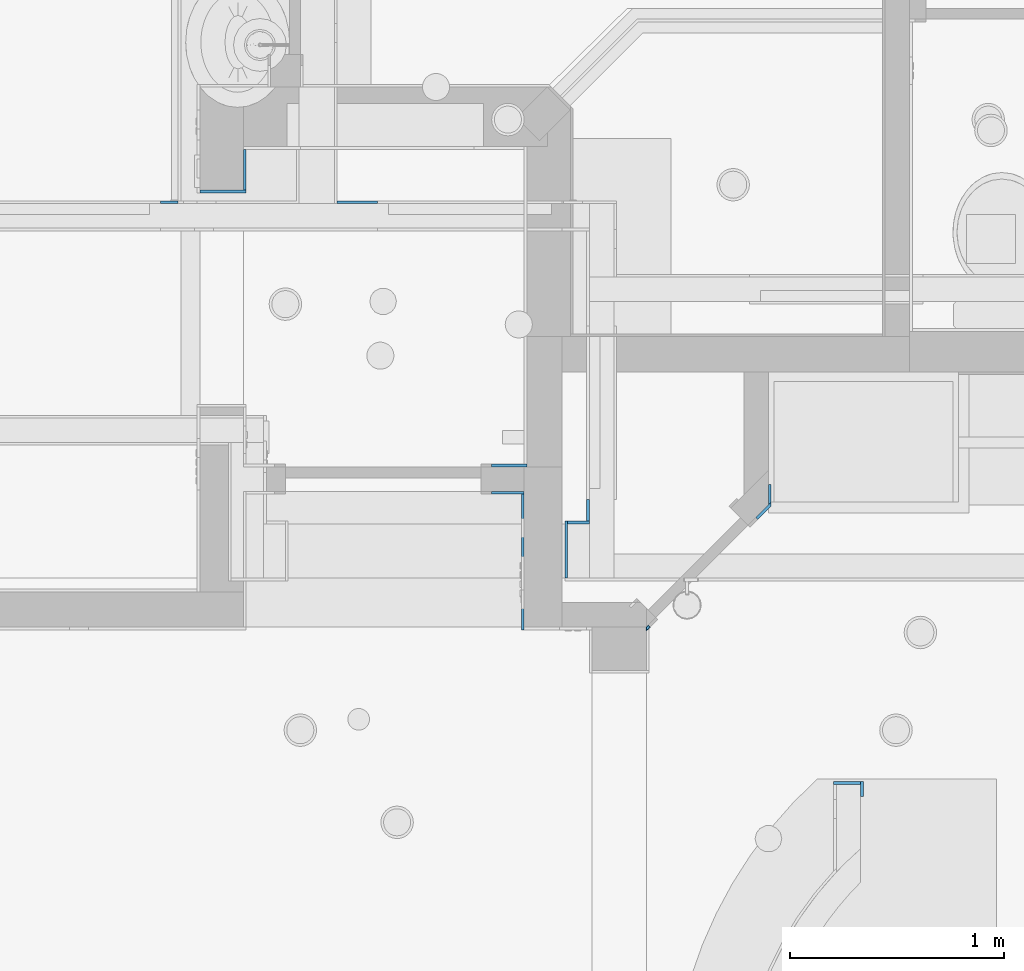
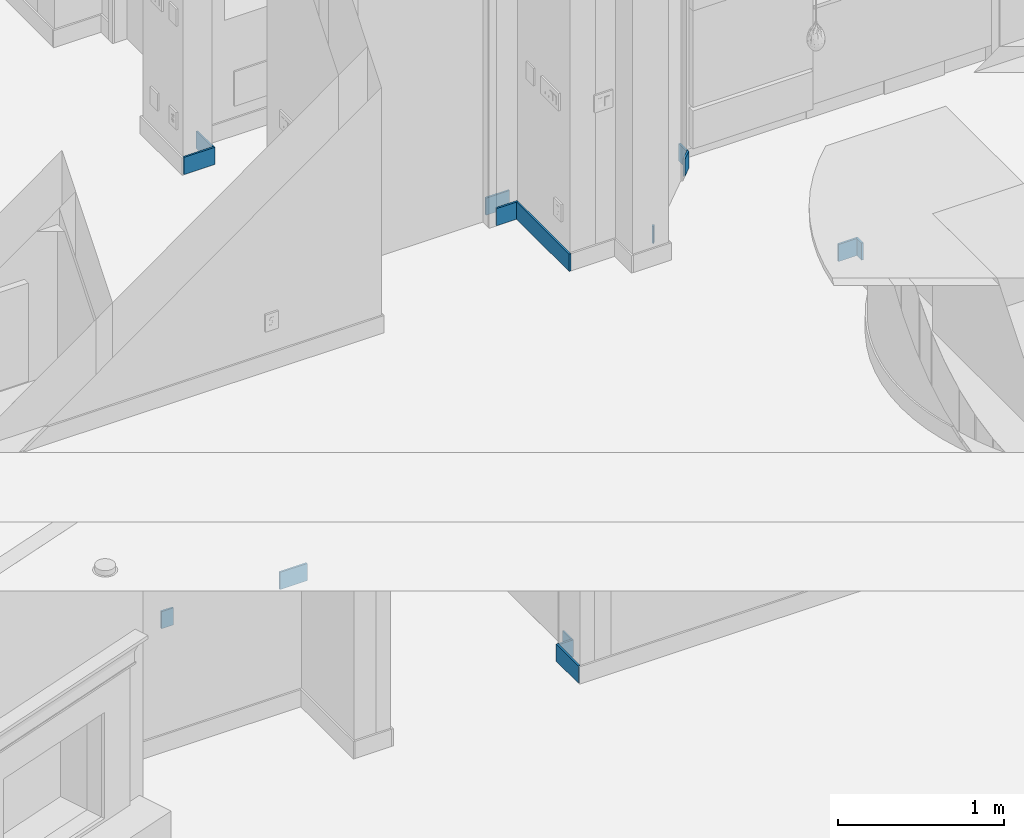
# One storey, part 23 of 81: 15 walls.
"""IFC2X3 building model written with IfcOpenShell, lengths in feet."""

from ifc_helpers import new_model, entity, si_unit, converted_unit, derived_unit, direction, frame, frame_2d, origin, place, context, subcontext, project, spatial, polyline, rectangle, outline, extrude, clip, bounded_halfspace, material, layer, layer_set, layer_usage, type_object, element, save


model = new_model("IFC2X3")

# Units and contexts
model_context = context("Model", 3, precision=0.0001, world=origin(), true_north=direction((6.12303176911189e-17, 1.0)))
body_context = subcontext(model_context, "Body", "Model", "MODEL_VIEW")
ifc_project = project(units=[converted_unit("LENGTHUNIT", "FOOT", entity("IfcRatioMeasure", 0.3048), si_unit("LENGTHUNIT", "METRE"), dimensions=[1, 0, 0, 0, 0, 0, 0]), converted_unit("AREAUNIT", "SQUARE FOOT", entity("IfcRatioMeasure", 0.09290304), si_unit("AREAUNIT", "SQUARE_METRE"), dimensions=[2, 0, 0, 0, 0, 0, 0]), converted_unit("VOLUMEUNIT", "CUBIC FOOT", entity("IfcRatioMeasure", 0.028316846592), si_unit("VOLUMEUNIT", "CUBIC_METRE"), dimensions=[3, 0, 0, 0, 0, 0, 0]), converted_unit("PLANEANGLEUNIT", "DEGREE", entity("IfcRatioMeasure", 0.0174532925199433), si_unit("PLANEANGLEUNIT", "RADIAN"), dimensions=[0, 0, 0, 0, 0, 0, 0]), si_unit("MASSUNIT", "GRAM", prefix="KILO"), derived_unit("MASSDENSITYUNIT", [(si_unit("MASSUNIT", "GRAM", prefix="KILO"), 1), (si_unit("LENGTHUNIT", "METRE"), -3)]), derived_unit("MOMENTOFINERTIAUNIT", [(si_unit("LENGTHUNIT", "METRE"), 4)]), si_unit("TIMEUNIT", "SECOND"), si_unit("FREQUENCYUNIT", "HERTZ"), si_unit("THERMODYNAMICTEMPERATUREUNIT", "DEGREE_CELSIUS"), derived_unit("THERMALTRANSMITTANCEUNIT", [(si_unit("MASSUNIT", "GRAM", prefix="KILO"), 1), (si_unit("THERMODYNAMICTEMPERATUREUNIT", "KELVIN"), -1), (si_unit("TIMEUNIT", "SECOND"), -3)]), derived_unit("VOLUMETRICFLOWRATEUNIT", [(si_unit("LENGTHUNIT", "METRE"), 3), (si_unit("TIMEUNIT", "SECOND"), -1)]), si_unit("ELECTRICCURRENTUNIT", "AMPERE"), si_unit("ELECTRICVOLTAGEUNIT", "VOLT"), si_unit("POWERUNIT", "WATT"), si_unit("FORCEUNIT", "NEWTON"), si_unit("ILLUMINANCEUNIT", "LUX"), si_unit("LUMINOUSFLUXUNIT", "LUMEN"), si_unit("LUMINOUSINTENSITYUNIT", "CANDELA"), derived_unit("USERDEFINED", [(si_unit("MASSUNIT", "GRAM", prefix="KILO"), -1), (si_unit("LENGTHUNIT", "METRE"), -2), (si_unit("TIMEUNIT", "SECOND"), 3), (si_unit("LUMINOUSFLUXUNIT", "LUMEN"), 1)]), derived_unit("LINEARVELOCITYUNIT", [(si_unit("LENGTHUNIT", "METRE"), 1), (si_unit("TIMEUNIT", "SECOND"), -1)]), si_unit("PRESSUREUNIT", "PASCAL"), derived_unit("USERDEFINED", [(si_unit("LENGTHUNIT", "METRE"), -2), (si_unit("MASSUNIT", "GRAM", prefix="KILO"), 1), (si_unit("TIMEUNIT", "SECOND"), -2)]), derived_unit("LINEARFORCEUNIT", [(si_unit("MASSUNIT", "GRAM", prefix="KILO"), 1), (si_unit("LENGTHUNIT", "METRE"), 1), (si_unit("TIMEUNIT", "SECOND"), -2), (si_unit("LENGTHUNIT", "METRE"), -1)]), derived_unit("PLANARFORCEUNIT", [(si_unit("MASSUNIT", "GRAM", prefix="KILO"), 1), (si_unit("LENGTHUNIT", "METRE"), 1), (si_unit("TIMEUNIT", "SECOND"), -2), (si_unit("LENGTHUNIT", "METRE"), -2)])], contexts=[model_context])

# Site, building, storey
site_placement = place(None, origin())
site = spatial("IfcSite", under=ifc_project, at=site_placement, Name="Default", CompositionType="ELEMENT")
building_placement = place(site_placement, origin())
building = spatial("IfcBuilding", under=site, at=building_placement, CompositionType="ELEMENT")
storey_placement = place(building_placement, origin())
storey = spatial("IfcBuildingStorey", under=building, at=storey_placement, Name="First floor", CompositionType="ELEMENT", Elevation=0.0)

# Walls
ifc_material = material(Name="Default New Material")
ifc_layer = layer(ifc_material, 0.0416666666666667)
ifc_layer_set = layer_set([ifc_layer], Name="Basic Wall:Wall Border_T1")
ifc_layer_usage_1 = layer_usage(ifc_layer_set, "AXIS2", "POSITIVE", -0.0208333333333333)
wall_type = type_object("IfcWallType", Name="Basic Wall:Wall Border_T1", PredefinedType="STANDARD", material=ifc_layer_set)
wall_1_placement = place(storey_placement, frame((-0.354166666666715, 31.0, 0.0), z_axis=(0.0, 0.0, 1.0), x_axis=(0.0, -1.0, 0.0)))
element("IfcWallStandardCase", 1, at=wall_1_placement, inside=storey, type_object=wall_type, material=ifc_layer_usage_1, Name="Basic Wall:Wall Border_T1", ObjectType="Basic Wall:Wall Border_T1", context=body_context, shape_type="SweptSolid", body=[
    extrude(rectangle(XDim=0.333333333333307, YDim=0.0416666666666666, at=frame_2d((0.166666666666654, -6.93889390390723e-18), x_axis=(-1.0, 0.0))), origin(), (0.0, 0.0, 1.0), 0.416666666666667),
])
ifc_layer_usage_2 = layer_usage(ifc_layer_set, "AXIS2", "POSITIVE", -0.0208333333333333)
wall_2_placement = place(storey_placement, frame((-0.333333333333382, 30.6458333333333, 0.0), z_axis=(0.0, 0.0, 1.0), x_axis=(-1.0, 0.0, 0.0)))
element("IfcWallStandardCase", 2, at=wall_2_placement, inside=storey, type_object=wall_type, material=ifc_layer_usage_2, Name="Basic Wall:Wall Border_T1", ObjectType="Basic Wall:Wall Border_T1", context=body_context, shape_type="SweptSolid", body=[
    extrude(rectangle(XDim=0.333333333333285, YDim=0.0416666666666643, at=frame_2d((0.166666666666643, 0.0), x_axis=(-1.0, 0.0))), origin(), (0.0, 0.0, 1.0), 0.416666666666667),
])
ifc_layer_usage_3 = layer_usage(ifc_layer_set, "AXIS2", "POSITIVE", -0.0208333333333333)
wall_3_placement = place(storey_placement, frame((-0.6875, 30.6666666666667, 0.0), z_axis=(0.0, 0.0, 1.0), x_axis=(0.0, -1.0, 0.0)))
element("IfcWallStandardCase", 3, at=wall_3_placement, inside=storey, type_object=wall_type, material=ifc_layer_usage_3, Name="Basic Wall:Wall Border_T1", ObjectType="Basic Wall:Wall Border_T1", context=body_context, shape_type="SweptSolid", body=[
    extrude(rectangle(XDim=0.875000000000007, YDim=0.0416666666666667, at=frame_2d((0.437500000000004, -2.25514051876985e-17), x_axis=(-1.0, 0.0))), origin(), (0.0, 0.0, 1.0), 0.416666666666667),
])
ifc_layer_usage_4 = layer_usage(ifc_layer_set, "AXIS2", "POSITIVE", -0.0208333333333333)
wall_4_placement = place(storey_placement, frame((-6.64583333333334, 35.5625, 0.0), z_axis=(0.0, 0.0, 1.0), x_axis=(-1.0, 0.0, 0.0)))
element("IfcWallStandardCase", 4, at=wall_4_placement, inside=storey, type_object=wall_type, material=ifc_layer_usage_4, Name="Basic Wall:Wall Border_T1", ObjectType="Basic Wall:Wall Border_T1", context=body_context, shape_type="SweptSolid", body=[
    extrude(rectangle(XDim=0.270833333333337, YDim=0.0416666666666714, at=frame_2d((0.135416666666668, 0.0), x_axis=(-1.0, 0.0))), origin(), (0.0, 0.0, 1.0), 0.416666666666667),
])
ifc_layer_usage_5 = layer_usage(ifc_layer_set, "AXIS2", "POSITIVE", -0.0208333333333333)
wall_5_placement = place(storey_placement, frame((-3.58333333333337, 35.5625, 0.0), z_axis=(0.0, 0.0, 1.0), x_axis=(-1.0, 0.0, 0.0)))
element("IfcWallStandardCase", 5, at=wall_5_placement, inside=storey, type_object=wall_type, material=ifc_layer_usage_5, Name="Basic Wall:Wall Border_T1", ObjectType="Basic Wall:Wall Border_T1", context=body_context, shape_type="Clipping", body=[
    clip(extrude(rectangle(XDim=0.624999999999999, YDim=0.0416666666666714, at=frame_2d((0.3125, 0.0), x_axis=(-1.0, 0.0))), origin(), (0.0, 0.0, 1.0), 0.416666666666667), bounded_halfspace(frame((0.624999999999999, -0.0208333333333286, 0.416666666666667), z_axis=(-1.0, 0.0, 0.0), x_axis=(0.0, -1.0, 0.0)), True, frame((0.624999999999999, -0.0208333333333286, 0.416666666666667), z_axis=(-1.0, 0.0, 0.0), x_axis=(0.0, -1.0, 0.0)), polyline([(0.0, 0.0), (-0.0416666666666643, 0.0), (-0.0416666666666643, -0.416666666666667), (0.0, -0.416666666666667), (0.0, 0.0)]))),
])
ifc_layer_usage_6 = layer_usage(ifc_layer_set, "AXIS2", "NEGATIVE", 0.0208333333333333)
wall_6_placement = place(storey_placement, frame((-1.83333333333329, 31.5208333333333, 10.6666666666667)))
element("IfcWallStandardCase", 6, at=wall_6_placement, inside=storey, type_object=wall_type, material=ifc_layer_usage_6, Name="Basic Wall:Wall Border_T1", ObjectType="Basic Wall:Wall Border_T1", context=body_context, shape_type="SweptSolid", body=[
    extrude(rectangle(XDim=0.541666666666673, YDim=0.0416666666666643, at=frame_2d((0.270833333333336, 0.0), x_axis=(-1.0, 0.0))), origin(), (0.0, 0.0, 1.0), 0.416666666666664),
])
ifc_layer_usage_7 = layer_usage(ifc_layer_set, "AXIS2", "NEGATIVE", 0.0208333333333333)
wall_7_placement = place(storey_placement, frame((-6.31250000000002, 35.7291666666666, 10.6666666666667)))
element("IfcWallStandardCase", 7, at=wall_7_placement, inside=storey, type_object=wall_type, material=ifc_layer_usage_7, Name="Basic Wall:Wall Border_T1", ObjectType="Basic Wall:Wall Border_T1", context=body_context, shape_type="SweptSolid", body=[
    extrude(rectangle(XDim=0.708333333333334, YDim=0.0416666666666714, at=frame_2d((0.354166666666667, -1.28196064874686e-15), x_axis=(-1.0, 0.0))), origin(), (0.0, 0.0, 1.0), 0.416666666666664),
])
ifc_layer_usage_8 = layer_usage(ifc_layer_set, "AXIS2", "NEGATIVE", 0.0208333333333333)
wall_8_placement = place(storey_placement, frame((-5.62500000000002, 35.75, 10.6666666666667), z_axis=(0.0, 0.0, 1.0), x_axis=(0.0, 1.0, 0.0)))
element("IfcWallStandardCase", 8, at=wall_8_placement, inside=storey, type_object=wall_type, material=ifc_layer_usage_8, Name="Basic Wall:Wall Border_T1", ObjectType="Basic Wall:Wall Border_T1", context=body_context, shape_type="SweptSolid", body=[
    extrude(rectangle(XDim=0.625, YDim=0.0416666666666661, at=frame_2d((0.3125, 1.12757025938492e-16), x_axis=(-1.0, 0.0))), origin(), (0.0, 0.0, 1.0), 0.416666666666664),
])
ifc_layer_usage_9 = layer_usage(ifc_layer_set, "AXIS2", "POSITIVE", -0.0208333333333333)
wall_9_placement = place(storey_placement, frame((-1.83333333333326, 31.1041666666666, 10.6666666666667)))
element("IfcWallStandardCase", 9, at=wall_9_placement, inside=storey, type_object=wall_type, material=ifc_layer_usage_9, Name="Basic Wall:Wall Border_T1", ObjectType="Basic Wall:Wall Border_T1", context=body_context, shape_type="SweptSolid", body=[
    extrude(rectangle(XDim=0.499999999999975, YDim=0.0416666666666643, at=frame_2d((0.249999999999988, 0.0), x_axis=(-1.0, 0.0))), origin(), (0.0, 0.0, 1.0), 0.416666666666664),
])
ifc_layer_usage_10 = layer_usage(ifc_layer_set, "AXIS2", "POSITIVE", -0.0208333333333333)
wall_10_placement = place(storey_placement, frame((-1.35416666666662, 31.0833333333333, 10.6666666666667), z_axis=(0.0, 0.0, 1.0), x_axis=(0.0, -1.0, 0.0)))
element("IfcWallStandardCase", 10, at=wall_10_placement, inside=storey, type_object=wall_type, material=ifc_layer_usage_10, Name="Basic Wall:Wall Border_T1", ObjectType="Basic Wall:Wall Border_T1", context=body_context, shape_type="SweptSolid", body=[
    extrude(rectangle(XDim=2.08333333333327, YDim=0.0416666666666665, at=frame_2d((1.04166666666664, 3.46944695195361e-17), x_axis=(-1.0, 0.0))), origin(), (0.0, 0.0, 1.0), 0.416666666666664),
])
ifc_layer_usage_11 = layer_usage(ifc_layer_set, "AXIS2", "POSITIVE", -0.0208333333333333)
wall_11_placement = place(storey_placement, frame((0.52693527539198, 28.9974724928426, 10.6666666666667), z_axis=(0.0, 0.0, 1.0), x_axis=(0.707106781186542, 0.707106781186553, 0.0)))
element("IfcWallStandardCase", 11, at=wall_11_placement, inside=storey, type_object=wall_type, material=ifc_layer_usage_11, Name="Basic Wall:Wall Border_T1", ObjectType="Basic Wall:Wall Border_T1", context=body_context, shape_type="SweptSolid", body=[
    extrude(outline(polyline([(0.0834604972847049, -0.0208333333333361), (0.0834604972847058, 0.020833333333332), (0.0416666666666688, 0.0208333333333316), (0.0, -0.0208333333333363), (0.0589255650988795, -0.0208333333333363), (0.0834604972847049, -0.0208333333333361)])), origin(), (0.0, 0.0, 1.0), 0.416666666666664),
])
ifc_layer_usage_12 = layer_usage(ifc_layer_set, "AXIS2", "POSITIVE", -0.0208333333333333)
wall_12_placement = place(storey_placement, frame((2.23586658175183, 30.7064037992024, 10.6666666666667), z_axis=(0.0, 0.0, 1.0), x_axis=(0.707106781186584, 0.707106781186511, 0.0)))
element("IfcWallStandardCase", 12, at=wall_12_placement, inside=storey, type_object=wall_type, material=ifc_layer_usage_12, Name="Basic Wall:Wall Border_T1", ObjectType="Basic Wall:Wall Border_T1", context=body_context, shape_type="SweptSolid", body=[
    extrude(outline(polyline([(0.293305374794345, -0.0208333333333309), (0.334972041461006, 0.0208333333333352), (0.276046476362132, 0.0208333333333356), (0.0, 0.0208333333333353), (0.0, -0.0208333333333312), (0.293305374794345, -0.0208333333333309)])), origin(), (0.0, 0.0, 1.0), 0.416666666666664),
])
ifc_layer_usage_13 = layer_usage(ifc_layer_set, "AXIS2", "NEGATIVE", 0.0208333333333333)
wall_13_placement = place(storey_placement, frame((2.43716285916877, 31.2291666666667, 10.6666666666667), z_axis=(0.0, 0.0, 1.0), x_axis=(0.0, -1.0, 0.0)))
element("IfcWallStandardCase", 13, at=wall_13_placement, inside=storey, type_object=wall_type, material=ifc_layer_usage_13, Name="Basic Wall:Wall Border_T1", ObjectType="Basic Wall:Wall Border_T1", context=body_context, shape_type="SweptSolid", body=[
    extrude(outline(polyline([(0.312837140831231, -0.020833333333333), (0.27117047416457, 0.0208333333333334), (0.0, 0.0208333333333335), (0.0, -0.020833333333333), (0.312837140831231, -0.020833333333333)])), origin(), (0.0, 0.0, 1.0), 0.416666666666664),
])
ifc_layer_usage_14 = layer_usage(ifc_layer_set, "AXIS2", "NEGATIVE", 0.0208333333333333)
wall_14_placement = place(storey_placement, frame((3.85416666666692, 26.4375, 10.6666666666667), z_axis=(0.0, 0.0, 1.0), x_axis=(0.0, 1.0, 0.0)))
element("IfcWallStandardCase", 14, at=wall_14_placement, inside=storey, type_object=wall_type, material=ifc_layer_usage_14, Name="Basic Wall:Wall Border_T1", ObjectType="Basic Wall:Wall Border_T1", context=body_context, shape_type="SweptSolid", body=[
    extrude(rectangle(XDim=0.229166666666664, YDim=0.041666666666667, at=frame_2d((0.114583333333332, -3.46944695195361e-18), x_axis=(-1.0, 0.0))), origin(), (0.0, 0.0, 1.0), 0.416666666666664),
])
ifc_layer_usage_15 = layer_usage(ifc_layer_set, "AXIS2", "NEGATIVE", 0.0208333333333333)
wall_15_placement = place(storey_placement, frame((3.83333333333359, 26.6458333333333, 10.6666666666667), z_axis=(0.0, 0.0, 1.0), x_axis=(-1.0, 0.0, 0.0)))
element("IfcWallStandardCase", 15, at=wall_15_placement, inside=storey, type_object=wall_type, material=ifc_layer_usage_15, Name="Basic Wall:Wall Border_T1", ObjectType="Basic Wall:Wall Border_T1", context=body_context, shape_type="SweptSolid", body=[
    extrude(rectangle(XDim=0.416666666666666, YDim=0.0416666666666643, at=frame_2d((0.208333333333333, 2.61943244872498e-16), x_axis=(-1.0, 0.0))), origin(), (0.0, 0.0, 1.0), 0.416666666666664),
])

save(model, "model.ifc")
